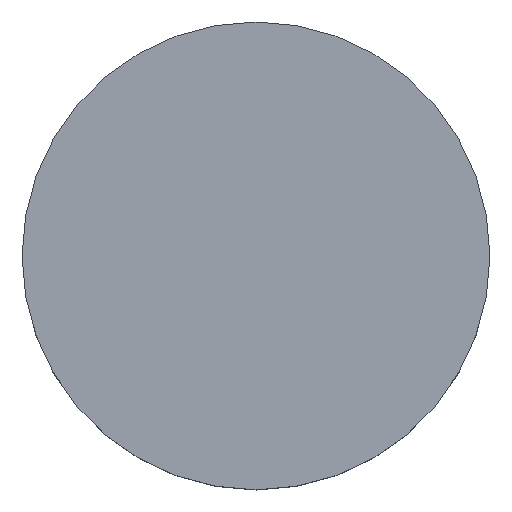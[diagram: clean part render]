
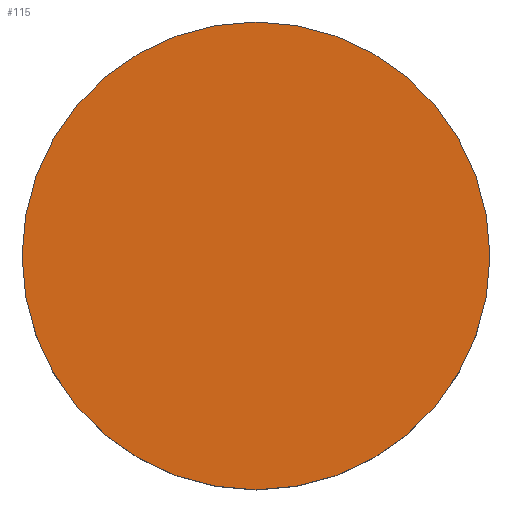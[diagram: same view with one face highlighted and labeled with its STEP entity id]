
A CAD part, top view. The second image highlights one B-rep face of the part: STEP entity #115.
In plain terms, the highlighted planar face has unit normal (0, 0, 1).
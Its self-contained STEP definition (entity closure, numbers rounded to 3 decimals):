
#115=ADVANCED_FACE('',(#129),#126,.T.);
#126=PLANE('',#242);
#129=FACE_OUTER_BOUND('',#139,.T.);
#139=EDGE_LOOP('',(#151,#152));
#151=ORIENTED_EDGE('',*,*,#203,.F.);
#152=ORIENTED_EDGE('',*,*,#204,.F.);
#191=VERTEX_POINT('',#329);
#192=VERTEX_POINT('',#330);
#203=EDGE_CURVE('',#191,#192,#223,.T.);
#204=EDGE_CURVE('',#192,#191,#224,.T.);
#223=CIRCLE('',#240,11.5);
#224=CIRCLE('',#241,11.5);
#240=AXIS2_PLACEMENT_3D('',#328,#269,#270);
#241=AXIS2_PLACEMENT_3D('',#331,#271,#272);
#242=AXIS2_PLACEMENT_3D('',#332,#273,#274);
#269=DIRECTION('',(0.,0.,-1.));
#270=DIRECTION('',(-1.,0.,0.));
#271=DIRECTION('',(0.,0.,-1.));
#272=DIRECTION('',(1.,0.,0.));
#273=DIRECTION('',(0.,0.,1.));
#274=DIRECTION('',(1.,0.,0.));
#328=CARTESIAN_POINT('',(0.,0.,5.));
#329=CARTESIAN_POINT('',(0.,11.5,5.));
#330=CARTESIAN_POINT('',(0.,-11.5,5.));
#331=CARTESIAN_POINT('',(0.,0.,5.));
#332=CARTESIAN_POINT('',(0.,0.,5.));
